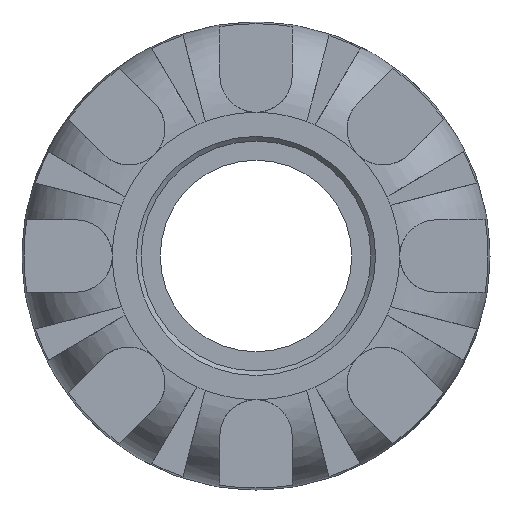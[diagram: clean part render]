
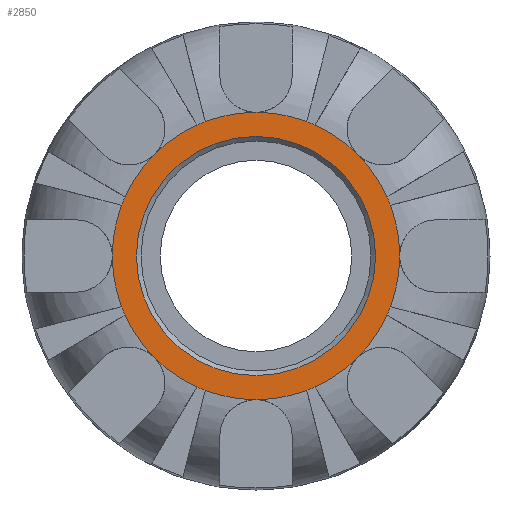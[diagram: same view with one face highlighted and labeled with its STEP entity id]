
A CAD part, left-side view. The second image highlights one B-rep face of the part: STEP entity #2850.
In plain terms, the highlighted planar face has unit normal (-1, 0, 0).
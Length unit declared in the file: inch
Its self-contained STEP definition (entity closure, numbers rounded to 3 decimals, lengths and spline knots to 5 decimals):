
#19=FACE_BOUND('',#619,.T.);
#34=PLANE('',#3049);
#454=FACE_OUTER_BOUND('',#618,.T.);
#618=EDGE_LOOP('',(#1823,#1824,#1825,#1826,#1827,#1828,#1829,#1830,#1831,
#1832,#1833,#1834,#1835,#1836,#1837,#1838,#1839,#1840,#1841,#1842,#1843,
#1844,#1845,#1846));
#619=EDGE_LOOP('',(#1847));
#785=CIRCLE('',#3046,0.58284);
#788=CIRCLE('',#3050,0.70005);
#789=CIRCLE('',#3051,0.70005);
#790=CIRCLE('',#3052,0.70005);
#791=CIRCLE('',#3053,0.70005);
#792=CIRCLE('',#3054,0.70005);
#793=CIRCLE('',#3055,0.70005);
#794=CIRCLE('',#3056,0.70005);
#795=CIRCLE('',#3057,0.70005);
#796=CIRCLE('',#3058,0.70005);
#797=CIRCLE('',#3059,0.70005);
#798=CIRCLE('',#3060,0.70005);
#799=CIRCLE('',#3061,0.70005);
#800=CIRCLE('',#3062,0.70005);
#801=CIRCLE('',#3063,0.70005);
#802=CIRCLE('',#3064,0.70005);
#803=CIRCLE('',#3065,0.70005);
#804=CIRCLE('',#3066,0.70005);
#805=CIRCLE('',#3067,0.70005);
#806=CIRCLE('',#3068,0.70005);
#807=CIRCLE('',#3069,0.70005);
#808=CIRCLE('',#3070,0.70005);
#809=CIRCLE('',#3071,0.70005);
#810=CIRCLE('',#3072,0.70005);
#811=CIRCLE('',#3073,0.70005);
#1077=VERTEX_POINT('',#4469);
#1080=VERTEX_POINT('',#4477);
#1081=VERTEX_POINT('',#4478);
#1082=VERTEX_POINT('',#4480);
#1083=VERTEX_POINT('',#4482);
#1084=VERTEX_POINT('',#4484);
#1085=VERTEX_POINT('',#4486);
#1086=VERTEX_POINT('',#4488);
#1087=VERTEX_POINT('',#4490);
#1088=VERTEX_POINT('',#4492);
#1089=VERTEX_POINT('',#4494);
#1090=VERTEX_POINT('',#4496);
#1091=VERTEX_POINT('',#4498);
#1092=VERTEX_POINT('',#4500);
#1093=VERTEX_POINT('',#4502);
#1094=VERTEX_POINT('',#4504);
#1095=VERTEX_POINT('',#4506);
#1096=VERTEX_POINT('',#4508);
#1097=VERTEX_POINT('',#4510);
#1098=VERTEX_POINT('',#4512);
#1099=VERTEX_POINT('',#4514);
#1100=VERTEX_POINT('',#4516);
#1101=VERTEX_POINT('',#4518);
#1102=VERTEX_POINT('',#4520);
#1103=VERTEX_POINT('',#4522);
#1363=EDGE_CURVE('',#1077,#1077,#785,.T.);
#1367=EDGE_CURVE('',#1080,#1081,#788,.T.);
#1368=EDGE_CURVE('',#1082,#1080,#789,.T.);
#1369=EDGE_CURVE('',#1083,#1082,#790,.T.);
#1370=EDGE_CURVE('',#1084,#1083,#791,.T.);
#1371=EDGE_CURVE('',#1085,#1084,#792,.T.);
#1372=EDGE_CURVE('',#1086,#1085,#793,.T.);
#1373=EDGE_CURVE('',#1087,#1086,#794,.T.);
#1374=EDGE_CURVE('',#1088,#1087,#795,.T.);
#1375=EDGE_CURVE('',#1089,#1088,#796,.T.);
#1376=EDGE_CURVE('',#1090,#1089,#797,.T.);
#1377=EDGE_CURVE('',#1091,#1090,#798,.T.);
#1378=EDGE_CURVE('',#1092,#1091,#799,.T.);
#1379=EDGE_CURVE('',#1093,#1092,#800,.T.);
#1380=EDGE_CURVE('',#1094,#1093,#801,.T.);
#1381=EDGE_CURVE('',#1095,#1094,#802,.T.);
#1382=EDGE_CURVE('',#1096,#1095,#803,.T.);
#1383=EDGE_CURVE('',#1097,#1096,#804,.T.);
#1384=EDGE_CURVE('',#1098,#1097,#805,.T.);
#1385=EDGE_CURVE('',#1099,#1098,#806,.T.);
#1386=EDGE_CURVE('',#1100,#1099,#807,.T.);
#1387=EDGE_CURVE('',#1101,#1100,#808,.T.);
#1388=EDGE_CURVE('',#1102,#1101,#809,.T.);
#1389=EDGE_CURVE('',#1103,#1102,#810,.T.);
#1390=EDGE_CURVE('',#1081,#1103,#811,.T.);
#1823=ORIENTED_EDGE('',*,*,#1367,.F.);
#1824=ORIENTED_EDGE('',*,*,#1368,.F.);
#1825=ORIENTED_EDGE('',*,*,#1369,.F.);
#1826=ORIENTED_EDGE('',*,*,#1370,.F.);
#1827=ORIENTED_EDGE('',*,*,#1371,.F.);
#1828=ORIENTED_EDGE('',*,*,#1372,.F.);
#1829=ORIENTED_EDGE('',*,*,#1373,.F.);
#1830=ORIENTED_EDGE('',*,*,#1374,.F.);
#1831=ORIENTED_EDGE('',*,*,#1375,.F.);
#1832=ORIENTED_EDGE('',*,*,#1376,.F.);
#1833=ORIENTED_EDGE('',*,*,#1377,.F.);
#1834=ORIENTED_EDGE('',*,*,#1378,.F.);
#1835=ORIENTED_EDGE('',*,*,#1379,.F.);
#1836=ORIENTED_EDGE('',*,*,#1380,.F.);
#1837=ORIENTED_EDGE('',*,*,#1381,.F.);
#1838=ORIENTED_EDGE('',*,*,#1382,.F.);
#1839=ORIENTED_EDGE('',*,*,#1383,.F.);
#1840=ORIENTED_EDGE('',*,*,#1384,.F.);
#1841=ORIENTED_EDGE('',*,*,#1385,.F.);
#1842=ORIENTED_EDGE('',*,*,#1386,.F.);
#1843=ORIENTED_EDGE('',*,*,#1387,.F.);
#1844=ORIENTED_EDGE('',*,*,#1388,.F.);
#1845=ORIENTED_EDGE('',*,*,#1389,.F.);
#1846=ORIENTED_EDGE('',*,*,#1390,.F.);
#1847=ORIENTED_EDGE('',*,*,#1363,.F.);
#2850=ADVANCED_FACE('',(#454,#19),#34,.T.);
#3046=AXIS2_PLACEMENT_3D('',#4470,#3418,#3419);
#3049=AXIS2_PLACEMENT_3D('',#4476,#3425,#3426);
#3050=AXIS2_PLACEMENT_3D('',#4479,#3427,#3428);
#3051=AXIS2_PLACEMENT_3D('',#4481,#3429,#3430);
#3052=AXIS2_PLACEMENT_3D('',#4483,#3431,#3432);
#3053=AXIS2_PLACEMENT_3D('',#4485,#3433,#3434);
#3054=AXIS2_PLACEMENT_3D('',#4487,#3435,#3436);
#3055=AXIS2_PLACEMENT_3D('',#4489,#3437,#3438);
#3056=AXIS2_PLACEMENT_3D('',#4491,#3439,#3440);
#3057=AXIS2_PLACEMENT_3D('',#4493,#3441,#3442);
#3058=AXIS2_PLACEMENT_3D('',#4495,#3443,#3444);
#3059=AXIS2_PLACEMENT_3D('',#4497,#3445,#3446);
#3060=AXIS2_PLACEMENT_3D('',#4499,#3447,#3448);
#3061=AXIS2_PLACEMENT_3D('',#4501,#3449,#3450);
#3062=AXIS2_PLACEMENT_3D('',#4503,#3451,#3452);
#3063=AXIS2_PLACEMENT_3D('',#4505,#3453,#3454);
#3064=AXIS2_PLACEMENT_3D('',#4507,#3455,#3456);
#3065=AXIS2_PLACEMENT_3D('',#4509,#3457,#3458);
#3066=AXIS2_PLACEMENT_3D('',#4511,#3459,#3460);
#3067=AXIS2_PLACEMENT_3D('',#4513,#3461,#3462);
#3068=AXIS2_PLACEMENT_3D('',#4515,#3463,#3464);
#3069=AXIS2_PLACEMENT_3D('',#4517,#3465,#3466);
#3070=AXIS2_PLACEMENT_3D('',#4519,#3467,#3468);
#3071=AXIS2_PLACEMENT_3D('',#4521,#3469,#3470);
#3072=AXIS2_PLACEMENT_3D('',#4523,#3471,#3472);
#3073=AXIS2_PLACEMENT_3D('',#4524,#3473,#3474);
#3418=DIRECTION('center_axis',(-1.,0.,0.));
#3419=DIRECTION('ref_axis',(0.,-1.,0.));
#3425=DIRECTION('center_axis',(-1.,0.,0.));
#3426=DIRECTION('ref_axis',(0.,0.,1.));
#3427=DIRECTION('center_axis',(1.,0.,0.));
#3428=DIRECTION('ref_axis',(0.,0.,-1.));
#3429=DIRECTION('center_axis',(1.,0.,0.));
#3430=DIRECTION('ref_axis',(0.,0.,-1.));
#3431=DIRECTION('center_axis',(1.,0.,0.));
#3432=DIRECTION('ref_axis',(0.,0.,-1.));
#3433=DIRECTION('center_axis',(1.,0.,0.));
#3434=DIRECTION('ref_axis',(0.,0.,-1.));
#3435=DIRECTION('center_axis',(1.,0.,0.));
#3436=DIRECTION('ref_axis',(0.,0.,-1.));
#3437=DIRECTION('center_axis',(1.,0.,0.));
#3438=DIRECTION('ref_axis',(0.,0.,-1.));
#3439=DIRECTION('center_axis',(1.,0.,0.));
#3440=DIRECTION('ref_axis',(0.,0.,-1.));
#3441=DIRECTION('center_axis',(1.,0.,0.));
#3442=DIRECTION('ref_axis',(0.,0.,-1.));
#3443=DIRECTION('center_axis',(1.,0.,0.));
#3444=DIRECTION('ref_axis',(0.,0.,-1.));
#3445=DIRECTION('center_axis',(1.,0.,0.));
#3446=DIRECTION('ref_axis',(0.,0.,-1.));
#3447=DIRECTION('center_axis',(1.,0.,0.));
#3448=DIRECTION('ref_axis',(0.,0.,-1.));
#3449=DIRECTION('center_axis',(1.,0.,0.));
#3450=DIRECTION('ref_axis',(0.,0.,-1.));
#3451=DIRECTION('center_axis',(1.,0.,0.));
#3452=DIRECTION('ref_axis',(0.,0.,-1.));
#3453=DIRECTION('center_axis',(1.,0.,0.));
#3454=DIRECTION('ref_axis',(0.,0.,-1.));
#3455=DIRECTION('center_axis',(1.,0.,0.));
#3456=DIRECTION('ref_axis',(0.,0.,-1.));
#3457=DIRECTION('center_axis',(1.,0.,0.));
#3458=DIRECTION('ref_axis',(0.,0.,-1.));
#3459=DIRECTION('center_axis',(1.,0.,0.));
#3460=DIRECTION('ref_axis',(0.,0.,-1.));
#3461=DIRECTION('center_axis',(1.,0.,0.));
#3462=DIRECTION('ref_axis',(0.,0.,-1.));
#3463=DIRECTION('center_axis',(1.,0.,0.));
#3464=DIRECTION('ref_axis',(0.,0.,-1.));
#3465=DIRECTION('center_axis',(1.,0.,0.));
#3466=DIRECTION('ref_axis',(0.,0.,-1.));
#3467=DIRECTION('center_axis',(1.,0.,0.));
#3468=DIRECTION('ref_axis',(0.,0.,-1.));
#3469=DIRECTION('center_axis',(1.,0.,0.));
#3470=DIRECTION('ref_axis',(0.,0.,-1.));
#3471=DIRECTION('center_axis',(1.,0.,0.));
#3472=DIRECTION('ref_axis',(0.,0.,-1.));
#3473=DIRECTION('center_axis',(1.,0.,0.));
#3474=DIRECTION('ref_axis',(0.,0.,-1.));
#4469=CARTESIAN_POINT('',(-2.125,0.58284,0.));
#4470=CARTESIAN_POINT('Origin',(-2.125,0.,0.));
#4476=CARTESIAN_POINT('Origin',(-2.125,0.70005,0.));
#4477=CARTESIAN_POINT('',(-2.125,0.70005,0.));
#4478=CARTESIAN_POINT('',(-2.125,0.655,0.24706));
#4479=CARTESIAN_POINT('Origin',(-2.125,0.,0.));
#4480=CARTESIAN_POINT('',(-2.125,0.655,-0.24706));
#4481=CARTESIAN_POINT('Origin',(-2.125,0.,0.));
#4482=CARTESIAN_POINT('',(-2.125,0.63786,-0.28846));
#4483=CARTESIAN_POINT('Origin',(-2.125,0.,0.));
#4484=CARTESIAN_POINT('',(-2.125,0.49501,-0.49501));
#4485=CARTESIAN_POINT('Origin',(-2.125,0.,0.));
#4486=CARTESIAN_POINT('',(-2.125,0.28846,-0.63786));
#4487=CARTESIAN_POINT('Origin',(-2.125,0.,0.));
#4488=CARTESIAN_POINT('',(-2.125,0.24706,-0.655));
#4489=CARTESIAN_POINT('Origin',(-2.125,0.,0.));
#4490=CARTESIAN_POINT('',(-2.125,0.,-0.70005));
#4491=CARTESIAN_POINT('Origin',(-2.125,0.,0.));
#4492=CARTESIAN_POINT('',(-2.125,-0.24706,-0.655));
#4493=CARTESIAN_POINT('Origin',(-2.125,0.,0.));
#4494=CARTESIAN_POINT('',(-2.125,-0.28846,-0.63786));
#4495=CARTESIAN_POINT('Origin',(-2.125,0.,0.));
#4496=CARTESIAN_POINT('',(-2.125,-0.49501,-0.49501));
#4497=CARTESIAN_POINT('Origin',(-2.125,0.,0.));
#4498=CARTESIAN_POINT('',(-2.125,-0.63786,-0.28846));
#4499=CARTESIAN_POINT('Origin',(-2.125,0.,0.));
#4500=CARTESIAN_POINT('',(-2.125,-0.655,-0.24706));
#4501=CARTESIAN_POINT('Origin',(-2.125,0.,0.));
#4502=CARTESIAN_POINT('',(-2.125,-0.70005,0.));
#4503=CARTESIAN_POINT('Origin',(-2.125,0.,0.));
#4504=CARTESIAN_POINT('',(-2.125,-0.655,0.24706));
#4505=CARTESIAN_POINT('Origin',(-2.125,0.,0.));
#4506=CARTESIAN_POINT('',(-2.125,-0.63786,0.28846));
#4507=CARTESIAN_POINT('Origin',(-2.125,0.,0.));
#4508=CARTESIAN_POINT('',(-2.125,-0.49501,0.49501));
#4509=CARTESIAN_POINT('Origin',(-2.125,0.,0.));
#4510=CARTESIAN_POINT('',(-2.125,-0.28846,0.63786));
#4511=CARTESIAN_POINT('Origin',(-2.125,0.,0.));
#4512=CARTESIAN_POINT('',(-2.125,-0.24706,0.655));
#4513=CARTESIAN_POINT('Origin',(-2.125,0.,0.));
#4514=CARTESIAN_POINT('',(-2.125,0.,0.70005));
#4515=CARTESIAN_POINT('Origin',(-2.125,0.,0.));
#4516=CARTESIAN_POINT('',(-2.125,0.24706,0.655));
#4517=CARTESIAN_POINT('Origin',(-2.125,0.,0.));
#4518=CARTESIAN_POINT('',(-2.125,0.28846,0.63786));
#4519=CARTESIAN_POINT('Origin',(-2.125,0.,0.));
#4520=CARTESIAN_POINT('',(-2.125,0.49501,0.49501));
#4521=CARTESIAN_POINT('Origin',(-2.125,0.,0.));
#4522=CARTESIAN_POINT('',(-2.125,0.63786,0.28846));
#4523=CARTESIAN_POINT('Origin',(-2.125,0.,0.));
#4524=CARTESIAN_POINT('Origin',(-2.125,0.,0.));
